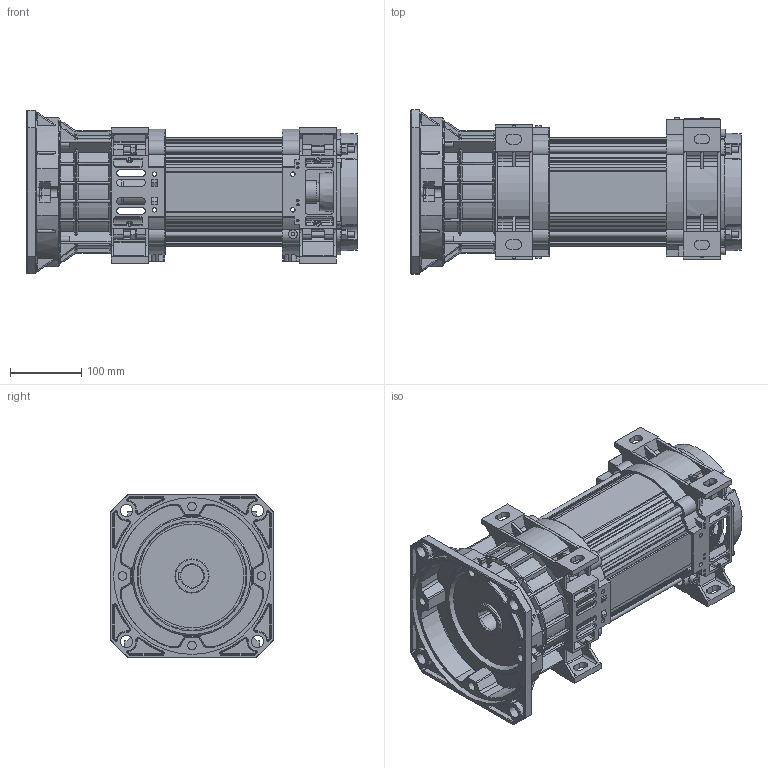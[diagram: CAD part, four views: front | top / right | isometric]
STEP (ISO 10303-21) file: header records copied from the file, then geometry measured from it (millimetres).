
FILE_DESCRIPTION(/* description */ ('Motore Tipo V46 FL220 F32-H185 SI Volano NO Piedi'),/* implementation_level */ '2;1');
FILE_NAME(/* name */ 'Y:\ServerTecnico\Mockup Motori x Sito Elmo\Mockup Tipo V46 Size 1 FL220 F32-H185 SI Volano.stp',/* time_stamp */ '2016-10-06T15:18:53+02:00',/* author */ ('aparmini'),/* organization */ (''),/* preprocessor_version */ 'ST-DEVELOPER v16.5',/* originating_system */ 'Autodesk Inventor 2017',/* authorisation */ '');
FILE_SCHEMA (('AUTOMOTIVE_DESIGN { 1 0 10303 214 3 1 1 }'));
Products named in the file (10): Mockup Tipo V46 Size 1 FL220 F32-H185 SI Volano; Mockup Statore Size 1 - F32-H185 SI Volano; TGS10; FA1VD220NA-01-07-2015; CA1VS-DSEMI 220 01-07-2015; SEMI FA1VD220A; Mockup CP1XD040N; TI08ML325; UNI 5587 - M8; DIN 125-2 - B 8,4
Assembly tree (22 placements, depth 3):
  Mockup Tipo V46 Size 1 FL220 F32-H185 SI Volano
    Mockup Statore Size 1 - F32-H185 SI Volano
    TGS10
    FA1VD220NA-01-07-2015
      CA1VS-DSEMI 220 01-07-2015
      SEMI FA1VD220A
    Mockup CP1XD040N
    UNI 5587 - M8  x8
    TI08ML325  x4
    DIN 125-2 - B 8,4  x4
Bounding box: 463 x 230 x 230 mm (x, y, z)
Volume: 6411632.8 mm3; surface area: 1005570.2 mm2
Topology: 21 solids, 21 shells, 2868 faces, 7671 edges, 4853 vertices
Faces by surface type: plane 1132, cylinder 1064, cone 329, bspline 223, torus 104, sphere 16
Full cylindrical faces by diameter (mm): 3.2 x5, 4 x8, 4.917 x2, 5 x4, 6.2 x8, 6.647 x8, 8 x4, 8.4 x4, 10 x8, 12 x8, 16 x4, 17 x5, 21 x1, 32 x2, 40 x1, 48 x1, 50 x1, 82 x2, 145 x1, 220 x1
Entity records: 92654 total; most frequent: CARTESIAN_POINT 24779, ORIENTED_EDGE 14302, DIRECTION 14278, EDGE_CURVE 7139, AXIS2_PLACEMENT_3D 5282, VERTEX_POINT 4604, LINE 3714, VECTOR 3714
